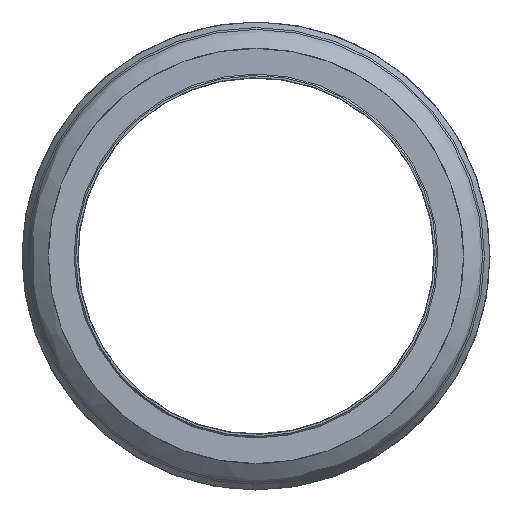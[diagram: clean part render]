
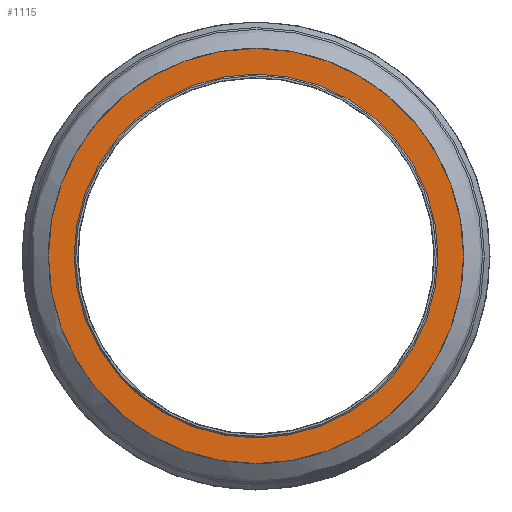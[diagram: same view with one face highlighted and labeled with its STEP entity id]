
A CAD part, front view. The second image highlights one B-rep face of the part: STEP entity #1115.
In plain terms, the highlighted planar face has unit normal (0, -1, 0) as drawn and (0, 1, 0) by its records, which use the part's own axes.
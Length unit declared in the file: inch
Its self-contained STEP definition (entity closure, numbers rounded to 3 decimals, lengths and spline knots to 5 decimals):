
#1053=CARTESIAN_POINT('',(-1.534,2.5,0.));
#1054=VERTEX_POINT('',#1053);
#1055=CARTESIAN_POINT('',(0.0,2.5,0.0));
#1056=DIRECTION('',(0.0,-1.0,0.0));
#1057=DIRECTION('',(1.0,0.0,0.0));
#1058=AXIS2_PLACEMENT_3D('',#1055,#1056,#1057);
#1059=CIRCLE('',#1058,1.534);
#1060=EDGE_CURVE('',#1054,#1054,#1059,.T.);
#1081=CARTESIAN_POINT('',(-1.75,2.5,0.));
#1082=VERTEX_POINT('',#1081);
#1083=CARTESIAN_POINT('',(0.0,2.5,0.0));
#1084=DIRECTION('',(0.0,-1.0,0.0));
#1085=DIRECTION('',(1.0,0.0,0.0));
#1086=AXIS2_PLACEMENT_3D('',#1083,#1084,#1085);
#1087=CIRCLE('',#1086,1.75);
#1088=EDGE_CURVE('',#1082,#1082,#1087,.T.);
#1104=CARTESIAN_POINT('',(0.0,2.5,0.0));
#1105=DIRECTION('',(0.0,-1.0,0.0));
#1106=DIRECTION('',(0.0,0.0,-1.0));
#1107=AXIS2_PLACEMENT_3D('',#1104,#1105,#1106);
#1108=PLANE('',#1107);
#1109=ORIENTED_EDGE('',*,*,#1088,.F.);
#1110=EDGE_LOOP('',(#1109));
#1111=FACE_OUTER_BOUND('',#1110,.T.);
#1112=ORIENTED_EDGE('',*,*,#1060,.T.);
#1113=EDGE_LOOP('',(#1112));
#1114=FACE_BOUND('',#1113,.T.);
#1115=ADVANCED_FACE('',(#1111,#1114),#1108,.F.);
